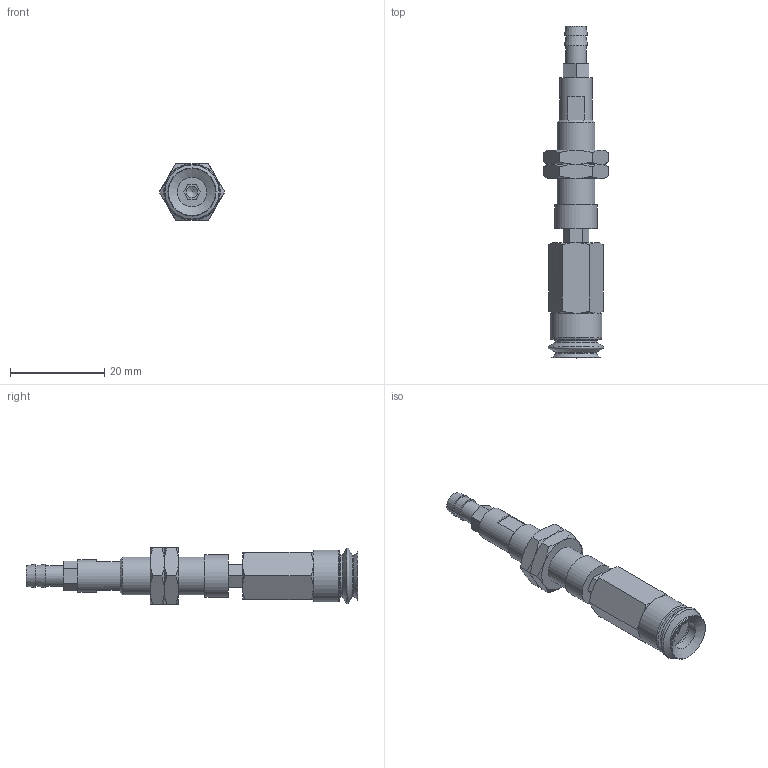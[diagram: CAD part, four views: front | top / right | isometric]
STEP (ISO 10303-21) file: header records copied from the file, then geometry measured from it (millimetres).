
FILE_DESCRIPTION(('STEP AP203'),'1');
FILE_NAME('-T.stp','2025-08-27T06:46:02',(' '),(' '),'Spatial InterOp 3D',' ',' ');
FILE_SCHEMA(('CONFIG_CONTROL_DESIGN'));
Length unit declared in the file: millimetre
Products named in the file (8): BNABPJTH-10-3-※-T; ADAPTER; NAPCTH-10-3-MBODY; Adapter-10-NAPJ; NAPJH-10-3-NUT; NAPJTH-10-3-FBODY; BPJG-10-※; T
Assembly tree (8 placements, depth 2):
  BNABPJTH-10-3-※-T
    ADAPTER
    NAPCTH-10-3-MBODY
    Adapter-10-NAPJ
    NAPJH-10-3-NUT  x2
    NAPJTH-10-3-FBODY
    BPJG-10-※
    T
Bounding box: 13.86 x 70.5 x 12 mm (x, y, z)
Volume: 4074.1 mm3; surface area: 4786.5 mm2
Topology: 8 solids, 8 shells, 150 faces, 320 edges, 196 vertices
Faces by surface type: plane 72, cone 54, cylinder 17, torus 7
Full cylindrical faces by diameter (mm): 2.5 x1, 3 x1, 4.134 x2, 4.3 x1, 4.6 x1, 5 x2, 6.266 x1, 7 x1, 7.188 x2, 7.8 x1, 8 x2, 9 x1, 11 x1
Entity records: 3926 total; most frequent: CARTESIAN_POINT 1009, DIRECTION 528, ORIENTED_EDGE 444, EDGE_CURVE 222, AXIS2_PLACEMENT_3D 218, EDGE_LOOP 186, VERTEX_POINT 159, FACE_OUTER_BOUND 150
